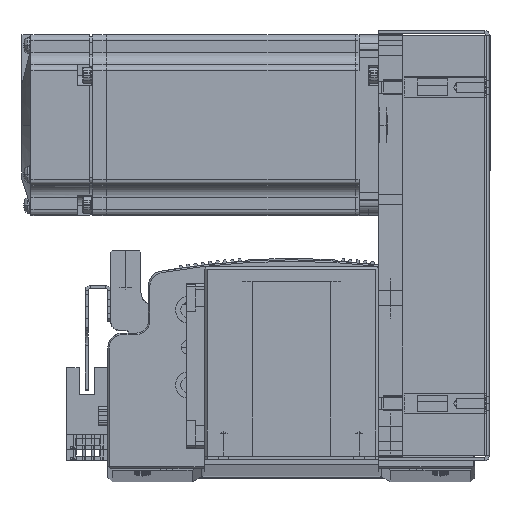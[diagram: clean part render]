
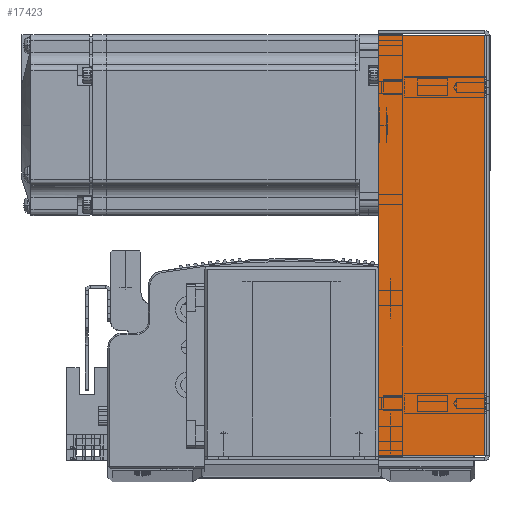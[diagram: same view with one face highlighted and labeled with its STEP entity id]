
A CAD part, top view. The second image highlights one B-rep face of the part: STEP entity #17423.
In plain terms, the highlighted planar face has unit normal (0, 0, 1) as drawn and (0, 0, -1) by its records, which use the part's own axes.
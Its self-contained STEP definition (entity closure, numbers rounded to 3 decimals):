
#6575 = AXIS2_PLACEMENT_3D ( 'NONE', #67472, #67480, #67520 ) ;
#9692 = VERTEX_POINT ( 'NONE', #86303 ) ;
#9729 = VERTEX_POINT ( 'NONE', #85082 ) ;
#9742 = VERTEX_POINT ( 'NONE', #85123 ) ;
#9743 = VERTEX_POINT ( 'NONE', #85054 ) ;
#17341 = CARTESIAN_POINT ( 'NONE',  ( 69.793, 0., -33.5 ) ) ;
#17346 = DIRECTION ( 'NONE',  ( 0., 1., 0. ) ) ;
#17358 = CARTESIAN_POINT ( 'NONE',  ( -69.793, 0., -33.5 ) ) ;
#17363 = DIRECTION ( 'NONE',  ( 0., 1., 0. ) ) ;
#17423 = ADVANCED_FACE ( 'NONE', ( #35565 ), #67471, .F. ) ;
#17459 = DIRECTION ( 'NONE',  ( 1., 0., 0. ) ) ;
#17487 = CARTESIAN_POINT ( 'NONE',  ( 71.5, 0.737, -33.5 ) ) ;
#17489 = CARTESIAN_POINT ( 'NONE',  ( 0., 36., -33.5 ) ) ;
#17565 = DIRECTION ( 'NONE',  ( 1., 0., 0. ) ) ;
#35565 = FACE_OUTER_BOUND ( 'NONE', #99840, .T. ) ;
#60088 = ORIENTED_EDGE ( 'NONE', *, *, #84529, .F. ) ;
#60147 = ORIENTED_EDGE ( 'NONE', *, *, #84585, .F. ) ;
#60163 = ORIENTED_EDGE ( 'NONE', *, *, #84604, .T. ) ;
#60182 = ORIENTED_EDGE ( 'NONE', *, *, #84559, .T. ) ;
#66239 = LINE ( 'NONE', #17341, #66240 ) ;
#66240 = VECTOR ( 'NONE', #17346, 1000. ) ;
#66299 = LINE ( 'NONE', #17487, #66302 ) ;
#66302 = VECTOR ( 'NONE', #17459, 1000. ) ;
#66309 = VECTOR ( 'NONE', #17565, 1000. ) ;
#66319 = LINE ( 'NONE', #17358, #66348 ) ;
#66331 = LINE ( 'NONE', #17489, #66309 ) ;
#66348 = VECTOR ( 'NONE', #17363, 1000. ) ;
#67471 = PLANE ( 'NONE',  #6575 ) ;
#67472 = CARTESIAN_POINT ( 'NONE',  ( 0., 0., -33.5 ) ) ;
#67480 = DIRECTION ( 'NONE',  ( 0., 0., 1. ) ) ;
#67520 = DIRECTION ( 'NONE',  ( 0., -1., 0. ) ) ;
#84529 = EDGE_CURVE ( 'NONE', #9692, #9729, #66239, .T. ) ;
#84559 = EDGE_CURVE ( 'NONE', #9743, #9742, #66319, .T. ) ;
#84585 = EDGE_CURVE ( 'NONE', #9743, #9692, #66299, .T. ) ;
#84604 = EDGE_CURVE ( 'NONE', #9742, #9729, #66331, .T. ) ;
#85054 = CARTESIAN_POINT ( 'NONE',  ( -69.793, 0.737, -33.5 ) ) ;
#85082 = CARTESIAN_POINT ( 'NONE',  ( 69.793, 36., -33.5 ) ) ;
#85123 = CARTESIAN_POINT ( 'NONE',  ( -69.793, 36., -33.5 ) ) ;
#86303 = CARTESIAN_POINT ( 'NONE',  ( 69.793, 0.737, -33.5 ) ) ;
#99840 = EDGE_LOOP ( 'NONE', ( #60147, #60182, #60163, #60088 ) ) ;
